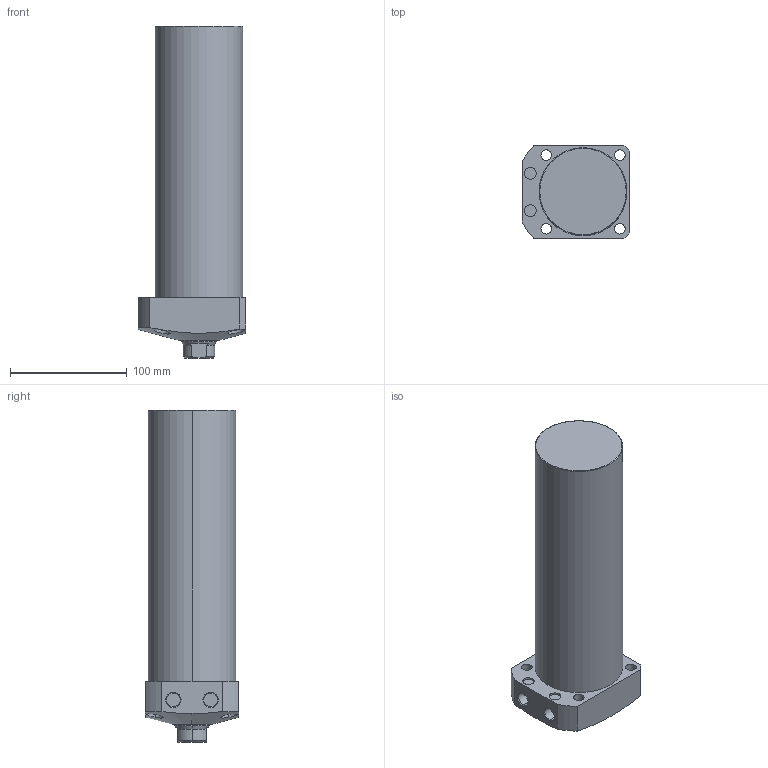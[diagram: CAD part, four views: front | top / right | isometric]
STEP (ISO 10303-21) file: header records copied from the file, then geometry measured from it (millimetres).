
FILE_DESCRIPTION (( 'STEP AP203' ), '1' );
FILE_NAME ('CLL-075CA-195.STEP', '2019-12-23T09:03:49', ( '' ), ( '' ), 'SwSTEP 2.0', 'SolidWorks 2015', '' );
FILE_SCHEMA (( 'CONFIG_CONTROL_DESIGN' ));
Length unit declared in the file: millimetre
Products named in the file (1): CLL-075CA-195
Bounding box: 92 x 80 x 284 mm (x, y, z)
Volume: 1244002.6 mm3; surface area: 86998.1 mm2
Topology: 1 solids, 1 shells, 74 faces, 171 edges, 108 vertices
Faces by surface type: cylinder 35, plane 22, cone 15, torus 2
Entity records: 2610 total; most frequent: CARTESIAN_POINT 815, DIRECTION 376, ORIENTED_EDGE 338, EDGE_CURVE 169, AXIS2_PLACEMENT_3D 156, VERTEX_POINT 108, EDGE_LOOP 93, CIRCLE 81
